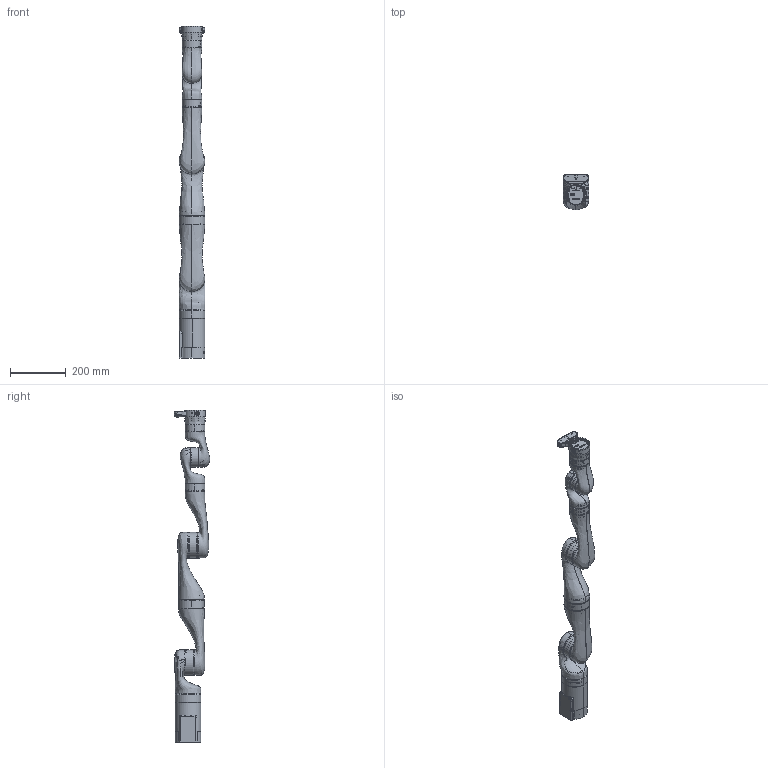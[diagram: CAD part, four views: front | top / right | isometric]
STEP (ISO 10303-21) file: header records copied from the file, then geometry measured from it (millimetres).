
FILE_DESCRIPTION (( 'STEP AP214' ), '1' );
FILE_NAME ('GEN3_STEP_ARM_V11.STEP', '2018-12-19T17:22:16', ( '' ), ( '' ), 'SwSTEP 2.0', 'SolidWorks 2018', '' );
FILE_SCHEMA (( 'AUTOMOTIVE_DESIGN' ));
Length unit declared in the file: millimetre
Products named in the file (41): KR12943; GEN3 SIMPLIFIED FOREARM; GEN3 SIMPLIFIED HalfArm2; GEN3 SIMPLIFIED HALF ARM 2; KR10643; GEN3 SIMPLIFIED VISION with interface NO GRIPPER NO CAP; GEN3_STEP_ARM_V11; GEN3 SIMPLIFIED BASE; GEN3 SIMPLIFIED Vision; GEN3 SIMPLIFIED HalfArm1; GEN3 SIMPLIFIED SHOULDER; GEN3 EMPTY SIMPLIFIED END EFFECTOR; GEN3 SIMPLIFIED Spherical Wrist2; GEN3 SIMPLIFIED WRIST 2; GEN3 SIMPLIFIED HALF ARM 1; GEN3 SIMPLIFIED WRIST 1; GEN3 SIMPLIFIED Forearm; GEN3 SIMPLIFIED Spherical Wrist1
Assembly tree (28 placements, depth 3):
  KR12943
  GEN3 SIMPLIFIED FOREARM
  KR12943
  KR10643
  KR12943
Bounding box: 92.81 x 127.84 x 1190.25 mm (x, y, z)
Volume: 3468453.1 mm3; surface area: 1018176.3 mm2
Topology: 38 solids, 56 shells, 2061 faces, 4934 edges, 3047 vertices
Faces by surface type: cylinder 648, plane 532, cone 361, bspline 316, torus 200, sphere 4
Entity records: 258907 total; most frequent: CARTESIAN_POINT 194050, ORIENTED_EDGE 9568, DIRECTION 9126, EDGE_CURVE 4784, AXIS2_PLACEMENT_3D 3622, VERTEX_POINT 2979, EDGE_LOOP 2223, ADVANCED_FACE 1993
